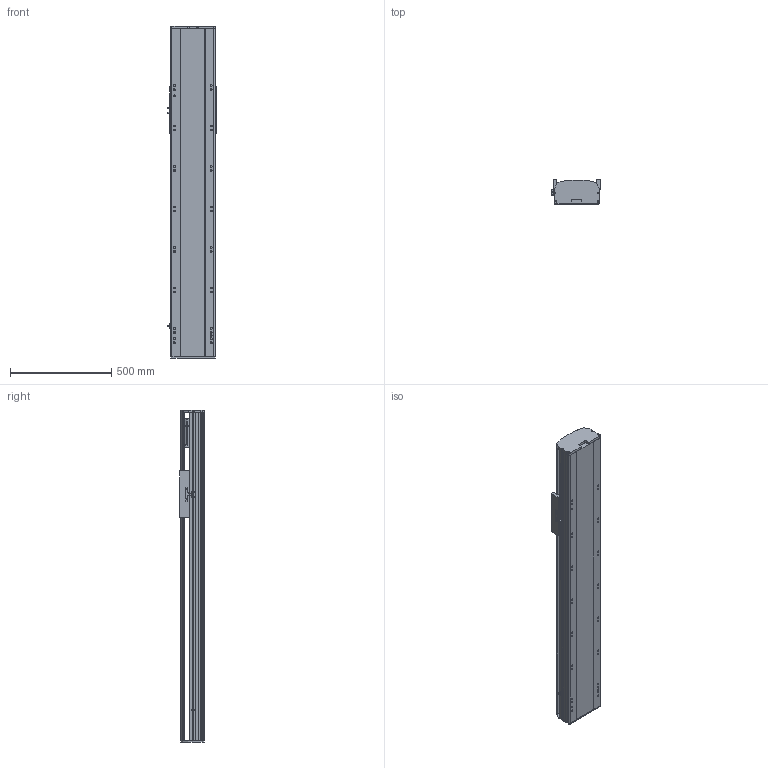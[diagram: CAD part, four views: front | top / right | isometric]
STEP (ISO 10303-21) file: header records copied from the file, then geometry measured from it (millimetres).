
FILE_DESCRIPTION (( 'STEP AP214' ), '1' );
FILE_NAME ('RTH22-XX-1050-B-M75-C4.STEP', '2025-10-24T10:32:41', ( 'Microsoft' ), ( 'Microsoft' ), 'SwSTEP 2.0', 'SolidWorks 2018', '' );
FILE_SCHEMA (( 'AUTOMOTIVE_DESIGN' ));
Length unit declared in the file: millimetre
Products named in the file (9): N_RTH22-B-008萇儂啣^RTH22-XX-XX-B-M75-C4; RTH22-XX-1050-B-M75-C4; N_RTH22-B-007奻裔^RTH22-XX-XX-B-M75-C4; N_RTH22-B-011菁釱^RTH22-XX-XX-B-M75-C4; N_OMRON EE-SX672 传感器^RTH22-XX-XX-B-M75-C4; N_RTH22-E-004-SFS25賑釱^RTH22-XX-XX-B-M75-C4; N_750W萇儂^RTH22-XX-XX-B-M75-C4; N_RTH22-GY-001耜裔^RTH22-XX-XX-B-M75-C4; N_RTH22-GY-013外置感应片^RTH22-XX-XX-B-M75-C4
Assembly tree (10 placements, depth 2):
  RTH22-XX-1050-B-M75-C4
    N_RTH22-B-011菁釱^RTH22-XX-XX-B-M75-C4
    N_RTH22-GY-001耜裔^RTH22-XX-XX-B-M75-C4
    N_750W萇儂^RTH22-XX-XX-B-M75-C4
    N_RTH22-B-008萇儂啣^RTH22-XX-XX-B-M75-C4
    N_RTH22-B-007奻裔^RTH22-XX-XX-B-M75-C4
    N_OMRON EE-SX672 传感器^RTH22-XX-XX-B-M75-C4  x3
    N_RTH22-GY-013外置感应片^RTH22-XX-XX-B-M75-C4
    N_RTH22-E-004-SFS25賑釱^RTH22-XX-XX-B-M75-C4
Bounding box: 238.5 x 122 x 1640 mm (x, y, z)
Volume: 22062641.8 mm3; surface area: 2272612.1 mm2
Topology: 10 solids, 10 shells, 1551 faces, 4250 edges, 2743 vertices
Faces by surface type: plane 756, cylinder 454, bspline 279, cone 62
Entity records: 38749 total; most frequent: CARTESIAN_POINT 11993, ORIENTED_EDGE 5468, DIRECTION 5152, EDGE_CURVE 2734, VERTEX_POINT 1779, AXIS2_PLACEMENT_3D 1742, VECTOR 1668, LINE 1668
